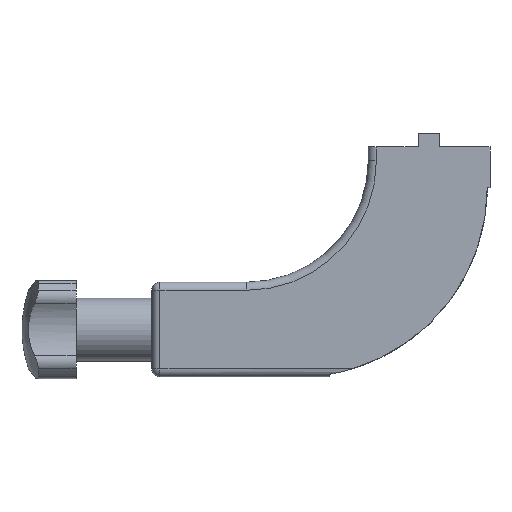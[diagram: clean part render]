
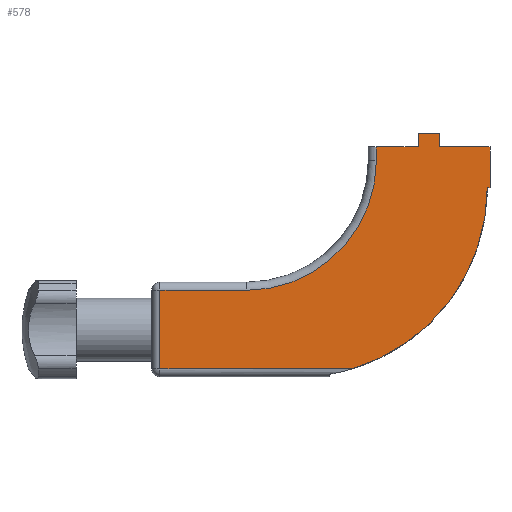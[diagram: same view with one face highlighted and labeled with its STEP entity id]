
A CAD part, left-side view. The second image highlights one B-rep face of the part: STEP entity #578.
In plain terms, the highlighted planar face has unit normal (-1, 0, 0).
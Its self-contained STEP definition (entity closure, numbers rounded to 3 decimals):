
#126 = EDGE_CURVE ( 'NONE', #278, #147, #1305, .T. ) ;
#133 = VERTEX_POINT ( 'NONE', #1307 ) ;
#134 = EDGE_CURVE ( 'NONE', #133, #280, #1437, .T. ) ;
#147 = VERTEX_POINT ( 'NONE', #1257 ) ;
#190 = VERTEX_POINT ( 'NONE', #1657 ) ;
#200 = EDGE_CURVE ( 'NONE', #280, #278, #1649, .T. ) ;
#203 = EDGE_CURVE ( 'NONE', #211, #190, #1656, .T. ) ;
#211 = VERTEX_POINT ( 'NONE', #1490 ) ;
#225 = EDGE_CURVE ( 'NONE', #252, #211, #1464, .T. ) ;
#252 = VERTEX_POINT ( 'NONE', #1512 ) ;
#257 = EDGE_CURVE ( 'NONE', #258, #252, #1680, .T. ) ;
#258 = VERTEX_POINT ( 'NONE', #1682 ) ;
#278 = VERTEX_POINT ( 'NONE', #1564 ) ;
#280 = VERTEX_POINT ( 'NONE', #1668 ) ;
#531 = EDGE_CURVE ( 'NONE', #601, #190, #2118, .T. ) ;
#569 = VERTEX_POINT ( 'NONE', #2396 ) ;
#575 = ORIENTED_EDGE ( 'NONE', *, *, #599, .F. ) ;
#576 = EDGE_CURVE ( 'NONE', #596, #601, #2383, .T. ) ;
#578 = ADVANCED_FACE ( 'NONE', ( #2398 ), #2402, .F. ) ;
#579 = ORIENTED_EDGE ( 'NONE', *, *, #203, .F. ) ;
#581 = ORIENTED_EDGE ( 'NONE', *, *, #576, .T. ) ;
#583 = EDGE_CURVE ( 'NONE', #147, #569, #2377, .T. ) ;
#596 = VERTEX_POINT ( 'NONE', #2299 ) ;
#599 = EDGE_CURVE ( 'NONE', #569, #258, #2298, .T. ) ;
#601 = VERTEX_POINT ( 'NONE', #2275 ) ;
#608 = EDGE_CURVE ( 'NONE', #133, #620, #2369, .T. ) ;
#609 = ORIENTED_EDGE ( 'NONE', *, *, #134, .F. ) ;
#610 = EDGE_CURVE ( 'NONE', #620, #627, #2269, .T. ) ;
#612 = ORIENTED_EDGE ( 'NONE', *, *, #610, .T. ) ;
#613 = EDGE_CURVE ( 'NONE', #627, #596, #2364, .T. ) ;
#619 = ORIENTED_EDGE ( 'NONE', *, *, #531, .T. ) ;
#620 = VERTEX_POINT ( 'NONE', #2347 ) ;
#621 = ORIENTED_EDGE ( 'NONE', *, *, #225, .F. ) ;
#622 = ORIENTED_EDGE ( 'NONE', *, *, #200, .F. ) ;
#623 = ORIENTED_EDGE ( 'NONE', *, *, #257, .F. ) ;
#624 = ORIENTED_EDGE ( 'NONE', *, *, #608, .T. ) ;
#626 = ORIENTED_EDGE ( 'NONE', *, *, #126, .F. ) ;
#627 = VERTEX_POINT ( 'NONE', #2348 ) ;
#635 = ORIENTED_EDGE ( 'NONE', *, *, #613, .T. ) ;
#636 = EDGE_LOOP ( 'NONE', ( #581, #619, #579, #621, #623, #575, #639, #626, #622, #609, #624, #612, #635 ) ) ;
#639 = ORIENTED_EDGE ( 'NONE', *, *, #583, .F. ) ;
#1257 = CARTESIAN_POINT ( 'NONE',  ( -22.5, 18.5, 5. ) ) ;
#1302 = DIRECTION ( 'NONE',  ( 0., -1., 0. ) ) ;
#1303 = VECTOR ( 'NONE', #1302, 1000. ) ;
#1304 = CARTESIAN_POINT ( 'NONE',  ( -22.5, 18.5, 5. ) ) ;
#1305 = LINE ( 'NONE', #1304, #1303 ) ;
#1307 = CARTESIAN_POINT ( 'NONE',  ( -22.5, 42., 0. ) ) ;
#1429 = DIRECTION ( 'NONE',  ( 0., -1., 0. ) ) ;
#1430 = VECTOR ( 'NONE', #1429, 1000. ) ;
#1431 = CARTESIAN_POINT ( 'NONE',  ( -22.5, 26.5, 0. ) ) ;
#1437 = LINE ( 'NONE', #1431, #1430 ) ;
#1461 = DIRECTION ( 'NONE',  ( 0., 1., 0. ) ) ;
#1462 = VECTOR ( 'NONE', #1461, 1000. ) ;
#1463 = CARTESIAN_POINT ( 'NONE',  ( -22.5, 0., -15. ) ) ;
#1464 = LINE ( 'NONE', #1463, #1462 ) ;
#1490 = CARTESIAN_POINT ( 'NONE',  ( -22.5, 1., -15. ) ) ;
#1494 = DIRECTION ( 'NONE',  ( 0., 0., -1. ) ) ;
#1495 = DIRECTION ( 'NONE',  ( 1., 0., 0. ) ) ;
#1504 = DIRECTION ( 'NONE',  ( 0., 0., 1. ) ) ;
#1505 = VECTOR ( 'NONE', #1504, 1000. ) ;
#1506 = CARTESIAN_POINT ( 'NONE',  ( -22.5, 26.5, 5. ) ) ;
#1507 = AXIS2_PLACEMENT_3D ( 'NONE', #1653, #1495, #1494 ) ;
#1512 = CARTESIAN_POINT ( 'NONE',  ( -22.5, 0., -15. ) ) ;
#1564 = CARTESIAN_POINT ( 'NONE',  ( -22.5, 26.5, 5. ) ) ;
#1649 = LINE ( 'NONE', #1506, #1505 ) ;
#1653 = CARTESIAN_POINT ( 'NONE',  ( -22.5, 71., -15. ) ) ;
#1656 = CIRCLE ( 'NONE', #1507, 70. ) ;
#1657 = CARTESIAN_POINT ( 'NONE',  ( -22.5, 50.727, -82. ) ) ;
#1668 = CARTESIAN_POINT ( 'NONE',  ( -22.5, 26.5, 0. ) ) ;
#1678 = DIRECTION ( 'NONE',  ( 0., 0., -1. ) ) ;
#1679 = VECTOR ( 'NONE', #1678, 1000. ) ;
#1680 = LINE ( 'NONE', #1685, #1679 ) ;
#1682 = CARTESIAN_POINT ( 'NONE',  ( -22.5, 0., 0. ) ) ;
#1685 = CARTESIAN_POINT ( 'NONE',  ( -22.5, 0., 0. ) ) ;
#2052 = DIRECTION ( 'NONE',  ( 0., -1., 0. ) ) ;
#2118 = LINE ( 'NONE', #2121, #2119 ) ;
#2119 = VECTOR ( 'NONE', #2052, 1000. ) ;
#2121 = CARTESIAN_POINT ( 'NONE',  ( -22.5, 71., -82. ) ) ;
#2269 = CIRCLE ( 'NONE', #2370, 48. ) ;
#2271 = DIRECTION ( 'NONE',  ( 0., -1., 0. ) ) ;
#2272 = VECTOR ( 'NONE', #2271, 1000. ) ;
#2273 = CARTESIAN_POINT ( 'NONE',  ( -22.5, 0., 0. ) ) ;
#2275 = CARTESIAN_POINT ( 'NONE',  ( -22.5, 122., -82. ) ) ;
#2298 = LINE ( 'NONE', #2273, #2272 ) ;
#2299 = CARTESIAN_POINT ( 'NONE',  ( -22.5, 122., -53. ) ) ;
#2308 = DIRECTION ( 'NONE',  ( 0., 0., -1. ) ) ;
#2309 = VECTOR ( 'NONE', #2308, 1000. ) ;
#2310 = CARTESIAN_POINT ( 'NONE',  ( -22.5, 18.5, 0. ) ) ;
#2311 = CARTESIAN_POINT ( 'NONE',  ( -22.5, 90., -5. ) ) ;
#2314 = DIRECTION ( 'NONE',  ( 0., 0., -1. ) ) ;
#2347 = CARTESIAN_POINT ( 'NONE',  ( -22.5, 42., -5. ) ) ;
#2348 = CARTESIAN_POINT ( 'NONE',  ( -22.5, 90., -53. ) ) ;
#2351 = DIRECTION ( 'NONE',  ( 0., 1., 0. ) ) ;
#2356 = VECTOR ( 'NONE', #2351, 1000. ) ;
#2357 = CARTESIAN_POINT ( 'NONE',  ( -22.5, 71., -53. ) ) ;
#2359 = DIRECTION ( 'NONE',  ( 0., 0., -1. ) ) ;
#2360 = DIRECTION ( 'NONE',  ( 1., 0., 0. ) ) ;
#2364 = LINE ( 'NONE', #2357, #2356 ) ;
#2366 = DIRECTION ( 'NONE',  ( 0., 0., -1. ) ) ;
#2367 = VECTOR ( 'NONE', #2366, 1000. ) ;
#2368 = CARTESIAN_POINT ( 'NONE',  ( -22.5, 42., -15. ) ) ;
#2369 = LINE ( 'NONE', #2368, #2367 ) ;
#2370 = AXIS2_PLACEMENT_3D ( 'NONE', #2311, #2360, #2359 ) ;
#2377 = LINE ( 'NONE', #2310, #2309 ) ;
#2379 = AXIS2_PLACEMENT_3D ( 'NONE', #2400, #2397, #2314 ) ;
#2380 = DIRECTION ( 'NONE',  ( 0., 0., -1. ) ) ;
#2381 = VECTOR ( 'NONE', #2380, 1000. ) ;
#2382 = CARTESIAN_POINT ( 'NONE',  ( -22.5, 122., -15. ) ) ;
#2383 = LINE ( 'NONE', #2382, #2381 ) ;
#2396 = CARTESIAN_POINT ( 'NONE',  ( -22.5, 18.5, 0. ) ) ;
#2397 = DIRECTION ( 'NONE',  ( 1., 0., 0. ) ) ;
#2398 = FACE_OUTER_BOUND ( 'NONE', #636, .T. ) ;
#2400 = CARTESIAN_POINT ( 'NONE',  ( -22.5, 71., -15. ) ) ;
#2402 = PLANE ( 'NONE',  #2379 ) ;
